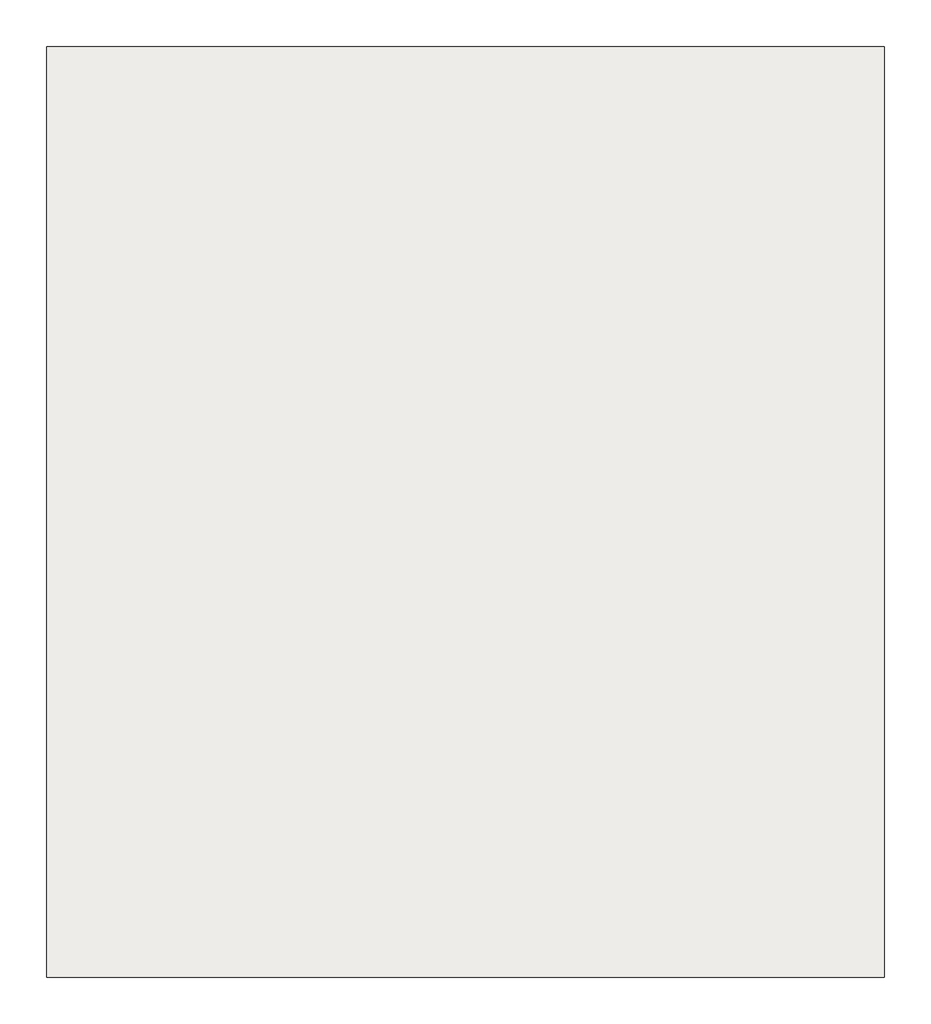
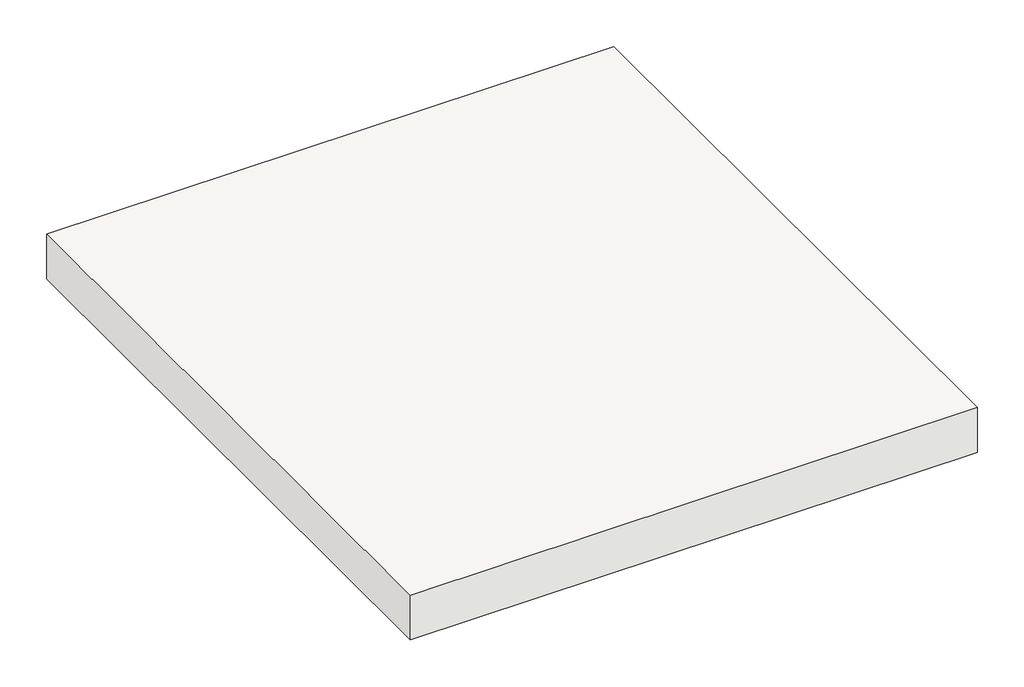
# One storey: 1 slab.
"""IFC4 building model written with IfcOpenShell, lengths in millimetres."""

from ifc_helpers import new_model, si_unit, frame, origin, place, context, project, spatial, polyline, outline, extrude, element, save

model = new_model("IFC4")

# Units and contexts
model_context = context("Model", 3, world=origin())
ifc_project = project(units=[si_unit("LENGTHUNIT", "METRE", prefix="MILLI")], contexts=[model_context])

# Site, building, storey
site = spatial("IfcSite", under=ifc_project)
building = spatial("IfcBuilding", under=site)
storey = spatial("IfcBuildingStorey", under=building, Name="RSL", Elevation=16000.0)

# Slab
placement = place(None, origin())
element("IfcSlab", 1, ObjectType="SCON150", at=placement, inside=storey, context=model_context, shape_type="SweptSolid", body=[
    extrude(outline(polyline([(9454.3805905, -5069.7401342), (11254.3805905, -5069.7401342), (11254.3805905, -7069.7401342), (9454.3805905, -7069.7401342), (9454.3805905, -5069.7401342)])), frame((0.0, 0.0, 13650.0), z_axis=(0.0, 0.0, 1.0), x_axis=(1.0, 0.0, 0.0)), (0.0, 0.0, 1.0), 150.0),
])

save(model, "model.ifc")
